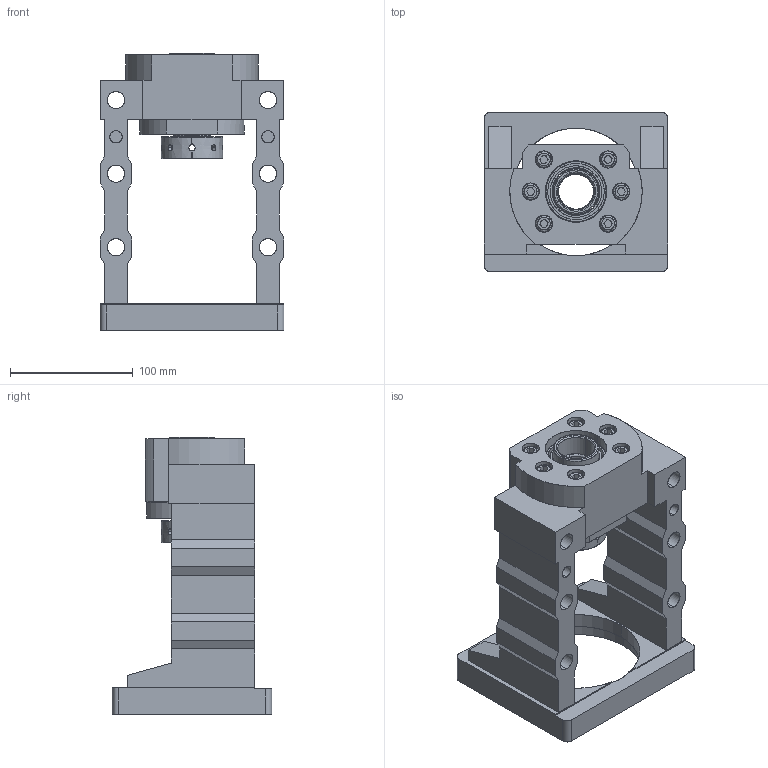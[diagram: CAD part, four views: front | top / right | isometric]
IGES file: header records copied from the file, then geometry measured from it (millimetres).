
Start section: SolidWorks IGES file using analytic representation for surfaces
Bounding box: 150 x 130 x 226 mm (x, y, z)
Surface area: 192340.8 mm2 (no closed solid volume)
Topology: 0 solids, 0 shells, 352 faces, 6004 edges, 5996 vertices
Faces by surface type: revolution 194, bspline 158
